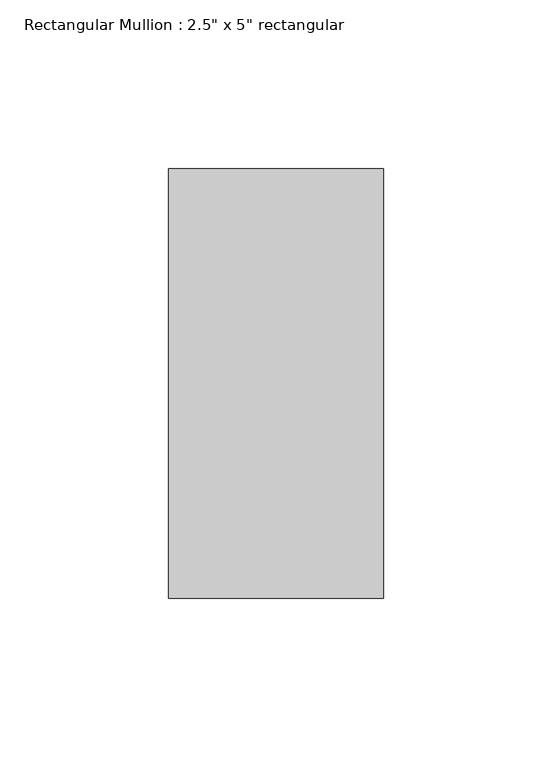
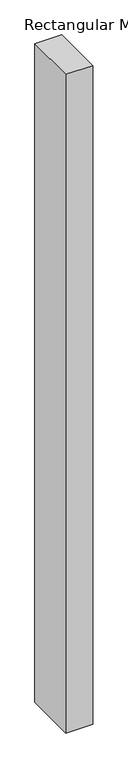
"""IFC4 building model written with IfcOpenShell, lengths in millimetres: member geometry."""

from ifc_helpers import new_model, si_unit, frame, origin, place, context, project, spatial, polyline, outline, extrude, source, transform, mapped, element, save


def member_788d4f16(model_context):
    return source(origin(), model_context, "Body", "SweptSolid", [
        extrude(outline(polyline([(31.75, 63.5), (31.75, -63.5), (-31.75, -63.5), (-31.75, 63.5), (31.75, 63.5)])), frame((0.0, 0.0, -1651.0), z_axis=(0.0, 0.0, 1.0), x_axis=(1.0, 0.0, 0.0)), (0.0, 0.0, 1.0), 1651.0),
    ])


if __name__ == "__main__":
    model = new_model("IFC4")
    model_context = context("Model", 3, world=origin())
    ifc_project = project(units=[si_unit("LENGTHUNIT", "METRE", prefix="MILLI")], contexts=[model_context])
    site = spatial("IfcSite", under=ifc_project)
    building = spatial("IfcBuilding", under=site)
    placement = place(None, origin())
    member_shape = member_788d4f16(model_context)
    element("IfcMember", 1, ObjectType="Rectangular Mullion : 2.5\" x 5\" rectangular", at=placement, inside=building, context=model_context, shape_type="MappedRepresentation", body=[
        mapped(member_shape, transform((0.0, 0.0, 0.0), x_axis=(1.0, 0.0, 0.0), y_axis=(0.0, 1.0, 0.0), z_axis=(0.0, 0.0, 1.0))),
    ])
    save(model, "model.ifc")
